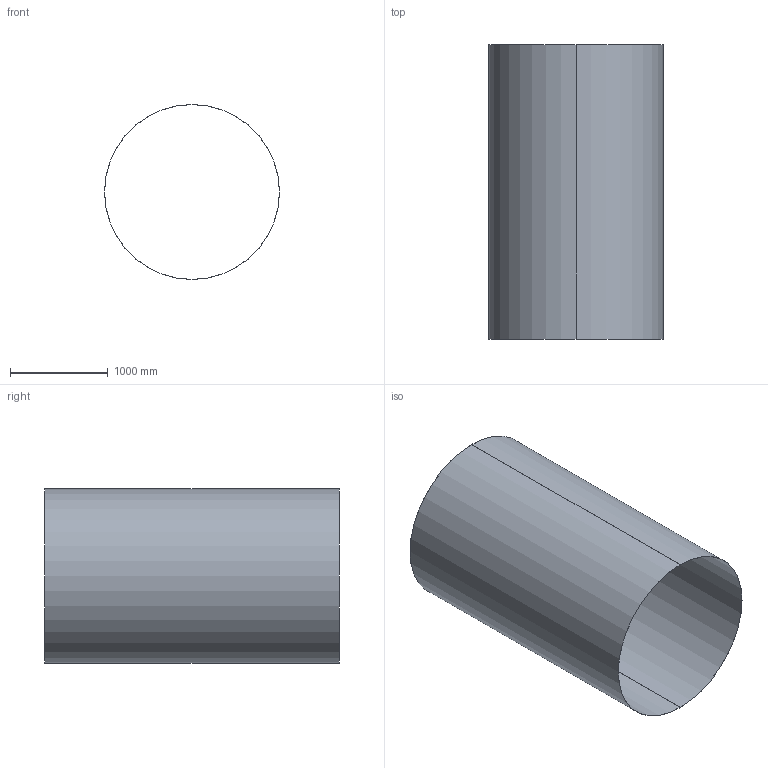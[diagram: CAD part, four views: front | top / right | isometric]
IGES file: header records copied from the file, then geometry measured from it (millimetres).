
Start section:  PTC IGES file: cst_skin_outer.igs
Global section: file name: cst_skin_outer.igs; native system: Pro/ENGINEER by Parametric Technology Corporation; preprocessor: 1999260; author: oshatz; organization: Unknown; date: 000922.101701; units: millimetre
Bounding box: 1788 x 3010 x 1788 mm (x, y, z)
Surface area: 33805588.1 mm2 (no closed solid volume)
Topology: 0 solids, 0 shells, 6 faces, 24 edges, 24 vertices
Faces by surface type: revolution 4, bspline 2
